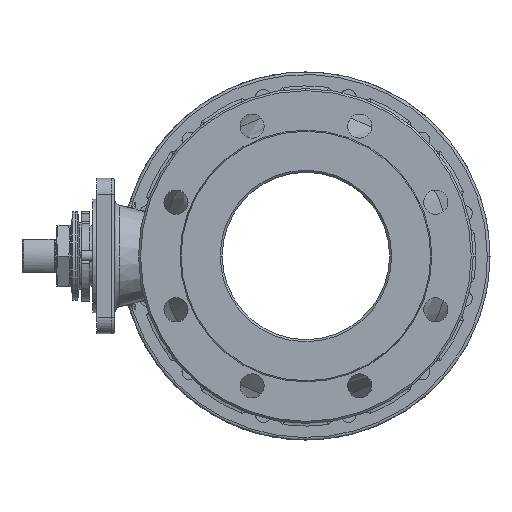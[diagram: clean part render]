
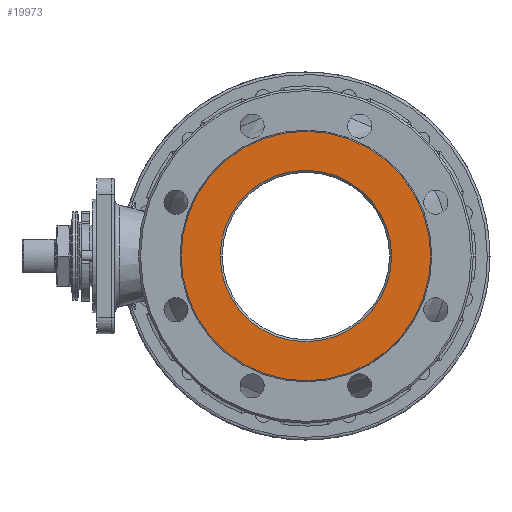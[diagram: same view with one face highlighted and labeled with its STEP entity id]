
A CAD part, left-side view. The second image highlights one B-rep face of the part: STEP entity #19973.
In plain terms, the highlighted planar face has unit normal (-1, 0, 0) as drawn and (0, -1, 0) by its records, which use the part's own axes.
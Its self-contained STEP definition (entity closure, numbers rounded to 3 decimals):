
#1116 = VERTEX_POINT ( 'NONE', #27423 ) ;
#1751 = AXIS2_PLACEMENT_3D ( 'NONE', #38604, #9874, #20663 ) ;
#1755 = EDGE_LOOP ( 'NONE', ( #14921, #22450 ) ) ;
#2394 = CARTESIAN_POINT ( 'NONE',  ( 0., -89., -10.75 ) ) ;
#2490 = CARTESIAN_POINT ( 'NONE',  ( 0., -89., -74.75 ) ) ;
#4243 = ORIENTED_EDGE ( 'NONE', *, *, #13371, .F. ) ;
#7847 = AXIS2_PLACEMENT_3D ( 'NONE', #17748, #36173, #36342 ) ;
#9272 = CARTESIAN_POINT ( 'NONE',  ( 0., -89., 53.25 ) ) ;
#9874 = DIRECTION ( 'NONE',  ( 0., -1., 0. ) ) ;
#11940 = EDGE_CURVE ( 'NONE', #1116, #24715, #23734, .T. ) ;
#12932 = VERTEX_POINT ( 'NONE', #2490 ) ;
#13371 = EDGE_CURVE ( 'NONE', #12932, #25301, #36081, .T. ) ;
#14921 = ORIENTED_EDGE ( 'NONE', *, *, #11940, .T. ) ;
#15554 = AXIS2_PLACEMENT_3D ( 'NONE', #2394, #23846, #41591 ) ;
#15655 = CIRCLE ( 'NONE', #28823, 64. ) ;
#16395 = DIRECTION ( 'NONE',  ( 0., 0., -1. ) ) ;
#17748 = CARTESIAN_POINT ( 'NONE',  ( 0., -89., -57.348 ) ) ;
#19973 = ADVANCED_FACE ( 'NONE', ( #27838, #46388 ), #28899, .T. ) ;
#20663 = DIRECTION ( 'NONE',  ( 0., 0., 1. ) ) ;
#22450 = ORIENTED_EDGE ( 'NONE', *, *, #28617, .T. ) ;
#23734 = CIRCLE ( 'NONE', #15554, 93.196 ) ;
#23846 = DIRECTION ( 'NONE',  ( 0., -1., 0. ) ) ;
#24550 = DIRECTION ( 'NONE',  ( 0., -1., 0. ) ) ;
#24715 = VERTEX_POINT ( 'NONE', #40671 ) ;
#25301 = VERTEX_POINT ( 'NONE', #9272 ) ;
#27423 = CARTESIAN_POINT ( 'NONE',  ( 0., -89., 82.446 ) ) ;
#27697 = CARTESIAN_POINT ( 'NONE',  ( 0., -89., -10.75 ) ) ;
#27838 = FACE_BOUND ( 'NONE', #44248, .T. ) ;
#28617 = EDGE_CURVE ( 'NONE', #24715, #1116, #33709, .T. ) ;
#28823 = AXIS2_PLACEMENT_3D ( 'NONE', #27697, #24550, #31363 ) ;
#28899 = PLANE ( 'NONE',  #7847 ) ;
#31363 = DIRECTION ( 'NONE',  ( 0., 0., -1. ) ) ;
#33709 = CIRCLE ( 'NONE', #1751, 93.196 ) ;
#34565 = ORIENTED_EDGE ( 'NONE', *, *, #40978, .F. ) ;
#36081 = CIRCLE ( 'NONE', #45038, 64. ) ;
#36173 = DIRECTION ( 'NONE',  ( 0., -1., 0. ) ) ;
#36342 = DIRECTION ( 'NONE',  ( 0., 0., -1. ) ) ;
#37188 = CARTESIAN_POINT ( 'NONE',  ( 0., -89., -10.75 ) ) ;
#38604 = CARTESIAN_POINT ( 'NONE',  ( 0., -89., -10.75 ) ) ;
#40671 = CARTESIAN_POINT ( 'NONE',  ( 0., -89., -103.946 ) ) ;
#40769 = DIRECTION ( 'NONE',  ( 0., -1., 0. ) ) ;
#40978 = EDGE_CURVE ( 'NONE', #25301, #12932, #15655, .T. ) ;
#41591 = DIRECTION ( 'NONE',  ( 0., 0., 1. ) ) ;
#44248 = EDGE_LOOP ( 'NONE', ( #4243, #34565 ) ) ;
#45038 = AXIS2_PLACEMENT_3D ( 'NONE', #37188, #40769, #16395 ) ;
#46388 = FACE_OUTER_BOUND ( 'NONE', #1755, .T. ) ;
